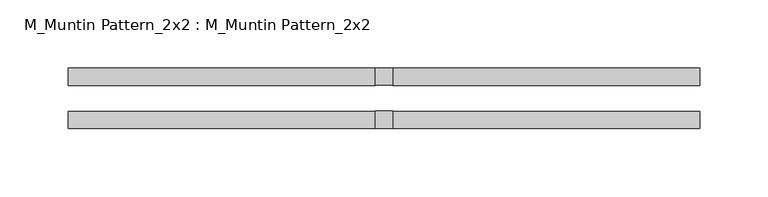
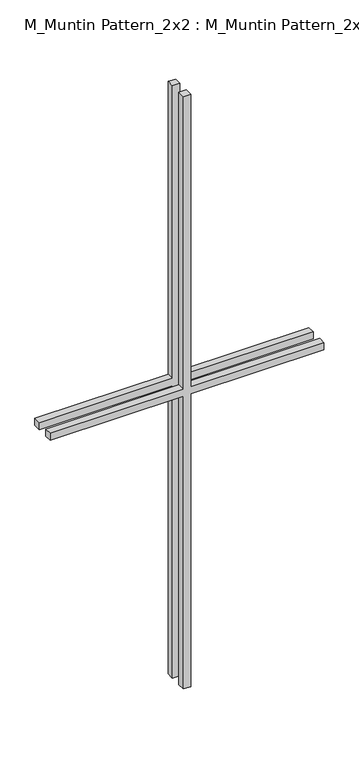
"""IFC4 building model written with IfcOpenShell, lengths in millimetres: proxy geometry, M_Muntin Pattern_2x2 : M_Muntin Pattern_2x2."""

from ifc_helpers import new_model, si_unit, frame, origin, place, context, project, spatial, polyline, outline, extrude, source, transform, mapped, element, save


def m_muntin_pattern_2x2_m_muntin_pattern_2x2_cd64e0af(model_context):
    return source(origin(), model_context, "Body", "SweptSolid", [
        extrude(outline(polyline([(536.5, -6.35), (536.5, -231.7375), (523.8, -231.7375), (523.8, -6.35), (0.0, -6.35), (0.0, 6.35), (523.8, 6.35), (523.8, 231.7375), (536.5, 231.7375), (536.5, 6.35), (1060.3, 6.35), (1060.3, -6.35), (536.5, -6.35)])), frame((0.0, 9.525, 0.0), z_axis=(0.0, 1.0, 0.0), x_axis=(0.0, 0.0, 1.0)), (0.0, 0.0, 1.0), 12.7),
        extrude(outline(polyline([(536.5, -6.35), (536.5, -231.7375), (523.8, -231.7375), (523.8, -6.35), (0.0, -6.35), (0.0, 6.35), (523.8, 6.35), (523.8, 231.7375), (536.5, 231.7375), (536.5, 6.35), (1060.3, 6.35), (1060.3, -6.35), (536.5, -6.35)])), frame((0.0, -22.225, 0.0), z_axis=(0.0, 1.0, 0.0), x_axis=(0.0, 0.0, 1.0)), (0.0, 0.0, 1.0), 12.7),
    ])


if __name__ == "__main__":
    model = new_model("IFC4")
    model_context = context("Model", 3, world=origin())
    ifc_project = project(units=[si_unit("LENGTHUNIT", "METRE", prefix="MILLI")], contexts=[model_context])
    site = spatial("IfcSite", under=ifc_project)
    building = spatial("IfcBuilding", under=site)
    placement = place(None, origin())
    m_muntin_pattern_2x2_m_muntin_pattern_2x2_shape = m_muntin_pattern_2x2_m_muntin_pattern_2x2_cd64e0af(model_context)
    element("IfcBuildingElementProxy", 1, Name="M_Muntin Pattern_2x2 : M_Muntin Pattern_2x2", ObjectType="M_Muntin Pattern_2x2 : M_Muntin Pattern_2x2", at=placement, inside=building, context=model_context, shape_type="MappedRepresentation", body=[
        mapped(m_muntin_pattern_2x2_m_muntin_pattern_2x2_shape, transform((0.0, 0.0, 0.0), x_axis=(1.0, 0.0, 0.0), y_axis=(0.0, 1.0, 0.0), z_axis=(0.0, 0.0, 1.0))),
    ])
    save(model, "model.ifc")
